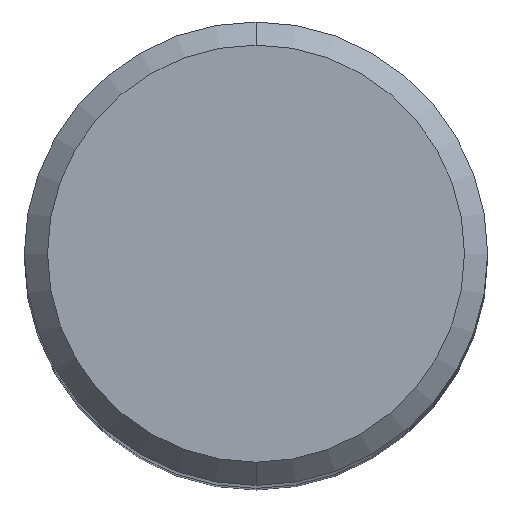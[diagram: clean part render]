
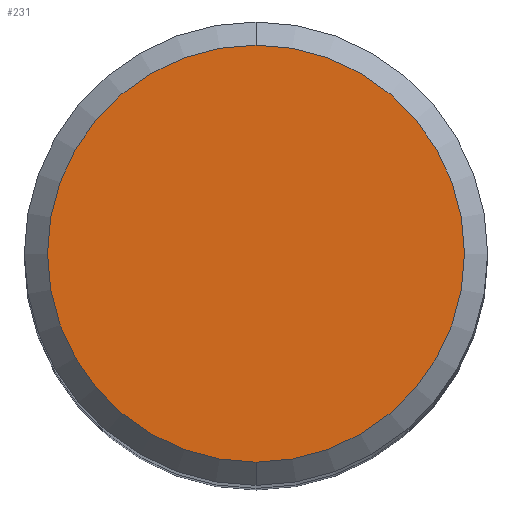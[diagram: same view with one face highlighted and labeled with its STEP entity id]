
A CAD part, top view. The second image highlights one B-rep face of the part: STEP entity #231.
In plain terms, the highlighted free-form (B-spline) face has degree [1, 1] with [2, 2] control points.
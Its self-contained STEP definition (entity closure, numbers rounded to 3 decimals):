
#38=CARTESIAN_POINT('',(0.,0.,0.));
#39=DIRECTION('',(0.,0.,1.));
#40=DIRECTION('',(0.,1.,0.));
#41=AXIS2_PLACEMENT_3D('',#38,#39,#40);
#43=CARTESIAN_POINT('',(0.,0.,0.));
#44=DIRECTION('',(0.,0.,-1.));
#45=DIRECTION('',(0.,1.,0.));
#46=AXIS2_PLACEMENT_3D('',#43,#44,#45);
#138=CARTESIAN_POINT('',(0.,7.2,0.));
#139=VERTEX_POINT('',#138);
#140=CARTESIAN_POINT('',(0.,-7.2,0.));
#141=VERTEX_POINT('',#140);
#222=CARTESIAN_POINT('',(7.488,7.488,0.));
#223=CARTESIAN_POINT('',(-7.488,7.488,0.));
#224=CARTESIAN_POINT('',(7.488,-7.488,0.));
#225=CARTESIAN_POINT('',(-7.488,-7.488,0.));
#226=B_SPLINE_SURFACE_WITH_KNOTS('',1,1,((#222,#223),(#224,#225)),.UNSPECIFIED.,
.F.,.F.,.F.,(2,2),(2,2),(-7.488,7.488),(-7.488,7.488),.UNSPECIFIED.);
#227=ORIENTED_EDGE('',*,*,#207,.F.);
#228=ORIENTED_EDGE('',*,*,#175,.T.);
#229=EDGE_LOOP('',(#227,#228));
#230=FACE_OUTER_BOUND('',#229,.F.);
#42=CIRCLE('',#41,7.2);
#47=CIRCLE('',#46,7.2);
#175=EDGE_CURVE('',#139,#141,#47,.T.);
#207=EDGE_CURVE('',#139,#141,#42,.T.);
#231=ADVANCED_FACE('',(#230),#226,.F.);
